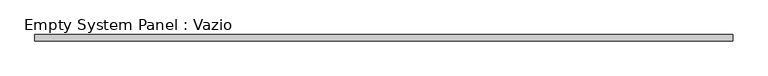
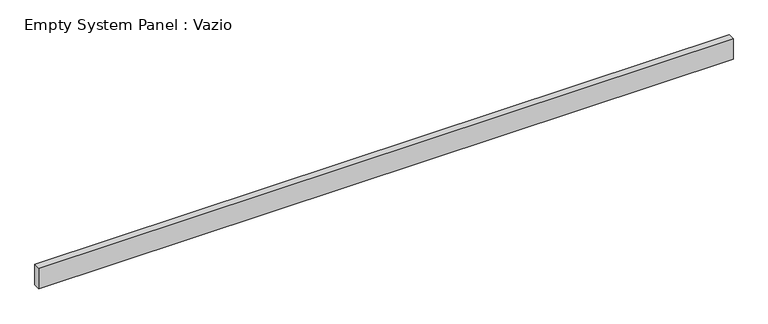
"""IFC4 building model written with IfcOpenShell, lengths in millimetres: plate geometry, Empty System Panel : Vazio."""

from ifc_helpers import new_model, si_unit, origin, origin_with_axes, place, context, project, spatial, polyline, outline, extrude, source, transform, mapped, element, save


def empty_system_panel_vazio_18ed3327(model_context):
    return source(origin(), model_context, "Body", "SweptSolid", [
        extrude(outline(polyline([(5330.0690497, 50.0), (-5330.0690497, 50.0), (-5330.0690497, 150.0), (5330.0690497, 150.0), (5330.0690497, 50.0)])), origin_with_axes(), (0.0, 0.0, 1.0), 333.8337702),
    ])


if __name__ == "__main__":
    model = new_model("IFC4")
    model_context = context("Model", 3, world=origin())
    ifc_project = project(units=[si_unit("LENGTHUNIT", "METRE", prefix="MILLI")], contexts=[model_context])
    site = spatial("IfcSite", under=ifc_project)
    building = spatial("IfcBuilding", under=site)
    placement = place(None, origin())
    empty_system_panel_vazio_shape = empty_system_panel_vazio_18ed3327(model_context)
    element("IfcPlate", 1, ObjectType="Empty System Panel : Vazio", at=placement, inside=building, context=model_context, shape_type="MappedRepresentation", body=[
        mapped(empty_system_panel_vazio_shape, transform((0.0, 0.0, 0.0), x_axis=(1.0, 0.0, 0.0), y_axis=(0.0, 1.0, 0.0), z_axis=(0.0, 0.0, 1.0))),
    ])
    save(model, "model.ifc")
